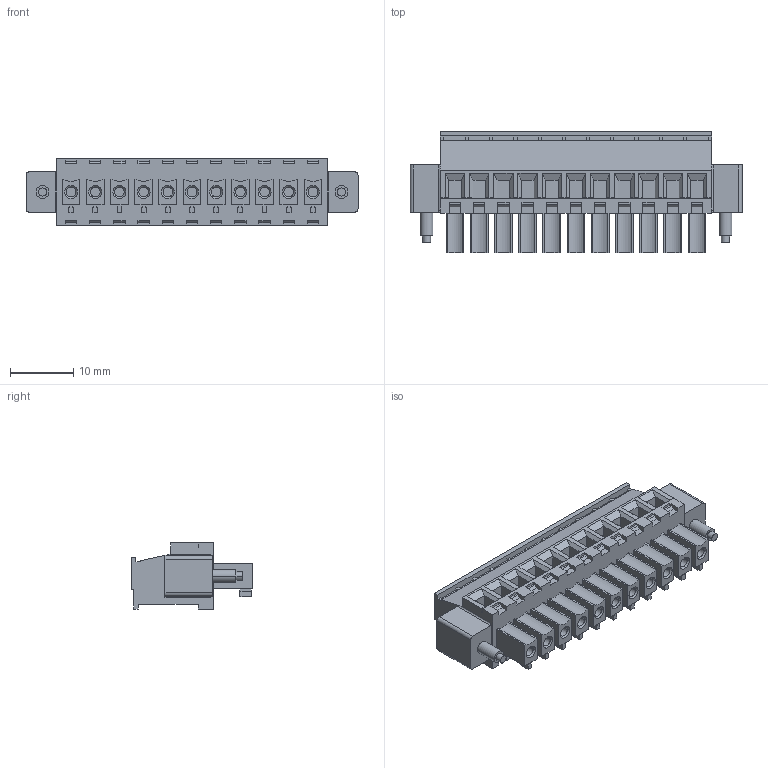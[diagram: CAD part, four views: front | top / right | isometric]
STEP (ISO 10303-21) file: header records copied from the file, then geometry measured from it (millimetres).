
FILE_DESCRIPTION((''),'2;1');
FILE_NAME('395172011','2015-02-04T',('ME'),(''),'PRO/ENGINEER BY PARAMETRIC TECHNOLOGY CORPORATION, 2011490','PRO/ENGINEER BY PARAMETRIC TECHNOLOGY CORPORATION, 2011490','');
FILE_SCHEMA(('CONFIG_CONTROL_DESIGN'));
Length unit declared in the file: inch
Products named in the file (1): 395172011
Bounding box: 52.3 x 19.18 x 10.41 mm (x, y, z)
Volume: 5429.8 mm3; surface area: 4858.7 mm2
Topology: 1 solids, 1 shells, 778 faces, 2053 edges, 1364 vertices
Faces by surface type: plane 613, cylinder 109, cone 56
Entity records: 23685 total; most frequent: CARTESIAN_POINT 4153, ORIENTED_EDGE 4058, DIRECTION 3931, EDGE_CURVE 2029, VECTOR 1729, LINE 1729, VERTEX_POINT 1316, AXIS2_PLACEMENT_3D 1101
